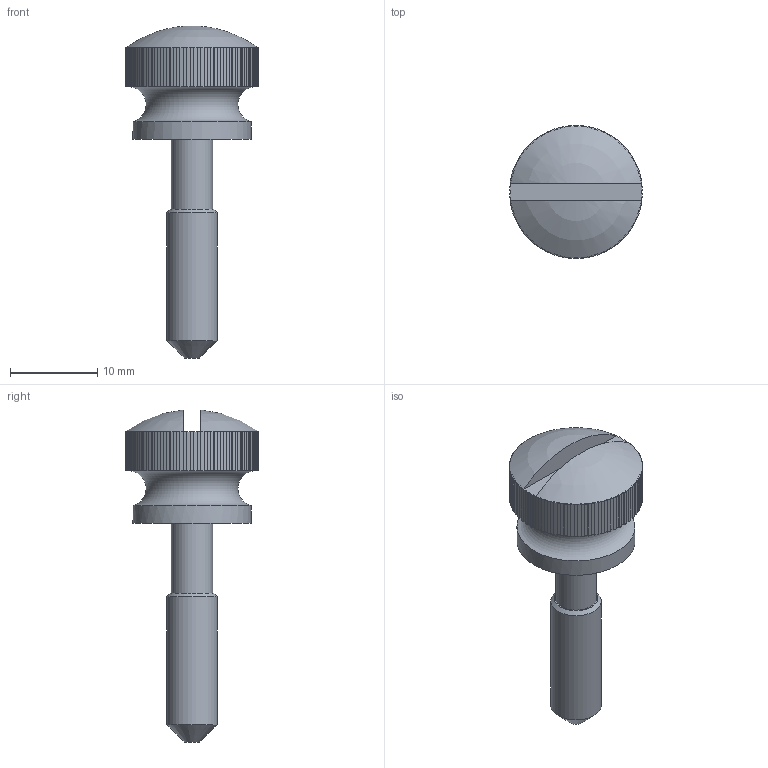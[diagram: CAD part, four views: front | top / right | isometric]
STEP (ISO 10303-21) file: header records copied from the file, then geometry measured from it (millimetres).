
FILE_DESCRIPTION(/* description */ (''),/* implementation_level */ '2;1');
FILE_NAME(/* name */ '\\SYNOLOGYNAS\web\db2\K-HSH15-M5_M\도면\M6\K-HSH15-M6-25.stp',/* time_stamp */ '2024-10-14T14:11:53+09:00',/* author */ ('user'),/* organization */ (''),/* preprocessor_version */ 'ST-DEVELOPER v15.6',/* originating_system */ 'Autodesk Inventor 2015',/* authorisation */ '');
FILE_SCHEMA (('AUTOMOTIVE_DESIGN { 1 0 10303 214 3 1 1 }'));
Length unit declared in the file: millimetre
Products named in the file (1): K-HSH15-M6-25
Bounding box: 15.19 x 15.2 x 37.96 mm (x, y, z)
Volume: 2238.5 mm3; surface area: 1391 mm2
Topology: 1 solids, 1 shells, 308 faces, 798 edges, 494 vertices
Faces by surface type: plane 240, cylinder 63, cone 2, sphere 2, torus 1
Full cylindrical faces by diameter (mm): 4.7 x1, 5.8 x1, 13.5 x1
Entity records: 9514 total; most frequent: CARTESIAN_POINT 2251, ORIENTED_EDGE 1580, DIRECTION 1416, EDGE_CURVE 790, AXIS2_PLACEMENT_3D 497, VERTEX_POINT 492, LINE 422, VECTOR 422
